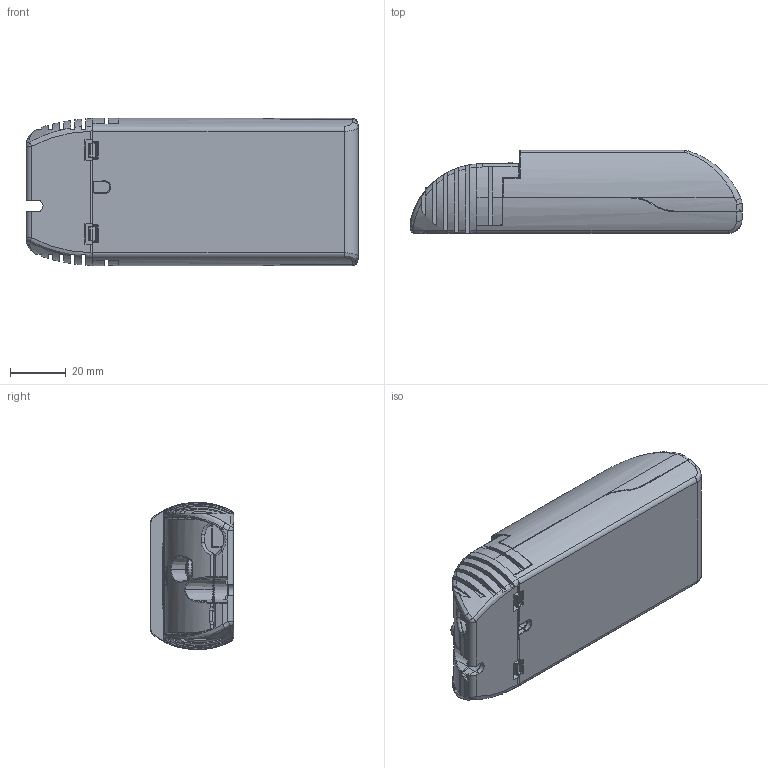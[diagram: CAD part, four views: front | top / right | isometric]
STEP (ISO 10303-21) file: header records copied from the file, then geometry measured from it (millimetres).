
FILE_DESCRIPTION (( 'STEP AP214' ), '1' );
FILE_NAME ('OTe-18-25-KitAssembly_CADexport.STEP', '2013-09-06T07:10:46', ( '' ), ( '' ), 'SwSTEP 2.0', 'SolidWorks 2012', '' );
FILE_SCHEMA (( 'AUTOMOTIVE_DESIGN' ));
Length unit declared in the file: millimetre
Products named in the file (1): OTe-18-25-KitAssembly_CADexport
Bounding box: 119 x 29.8 x 52.8 mm (x, y, z)
Volume: 136054.1 mm3; surface area: 34963.1 mm2
Topology: 6 solids, 13 shells, 2025 faces, 5248 edges, 3235 vertices
Faces by surface type: plane 797, cylinder 502, bspline 448, cone 106, sphere 88, torus 84
Entity records: 103318 total; most frequent: CARTESIAN_POINT 36728, ORIENTED_EDGE 10316, DIRECTION 7689, EDGE_CURVE 5158, VERTEX_POINT 3221, AXIS2_PLACEMENT_3D 2586, LINE 2517, VECTOR 2517
